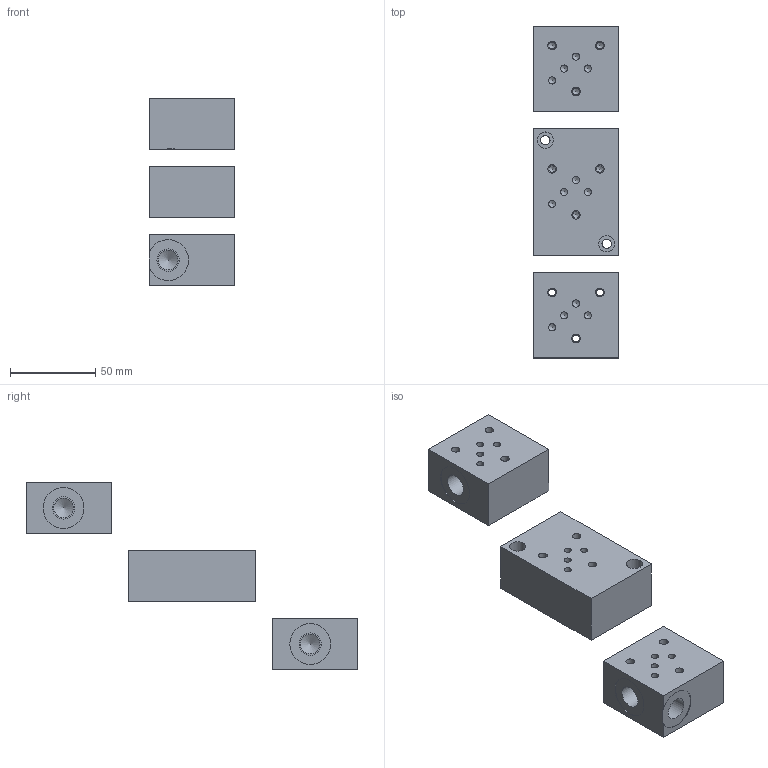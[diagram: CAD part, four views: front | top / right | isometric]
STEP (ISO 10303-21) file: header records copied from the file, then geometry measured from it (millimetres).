
FILE_DESCRIPTION(('Bauteilbeschreibung','HiCAD-Model','HiCAD-STEP-TRANSLATION','Bauteilbeschreibung'),'2;1');
FILE_NAME('C:/_EIGENE_DATEN/DXF_STEP/BG4_3508.STP','2008-08-25T15:14:45+00:00',('Konstrukteur'),('Konstrukteur Firma GmbH'),' HiCAD neXt 2007, Step 3.1.1212.3C ','HiCAD neXt 2007','confidential');
FILE_SCHEMA(('AUTOMOTIVE_DESIGN { 1 2 10303 214 0 1 1 1 }'));
Length unit declared in the file: millimetre
Products named in the file (7): BG4_3508; BG4S; A5001228; BG4U; A0BF05FF; BG4SU; A071226A
Assembly tree (6 placements, depth 3):
  BG4_3508
    BG4S
      A5001228
    BG4U
      A0BF05FF
    BG4SU
      A071226A
Bounding box: 50 x 195 x 110 mm (x, y, z)
Volume: 227573.1 mm3; surface area: 50109.9 mm2
Topology: 3 solids, 3 shells, 167 faces, 441 edges, 310 vertices
Faces by surface type: cylinder 77, plane 49, cone 41
Full cylindrical faces by diameter (mm): 4.019 x11, 4.2 x12, 5 x14, 5.5 x2, 9.5 x2, 11.6 x12, 13.157 x12, 24 x11
Entity records: 6146 total; most frequent: DIRECTION 706, CARTESIAN_POINT 585, ORIENTED_EDGE 388, COLOUR_RGB 364, PRESENTATION_STYLE_ASSIGNMENT 364, OVER_RIDING_STYLED_ITEM 361, AXIS2_PLACEMENT_3D 333, EDGE_LOOP 324
